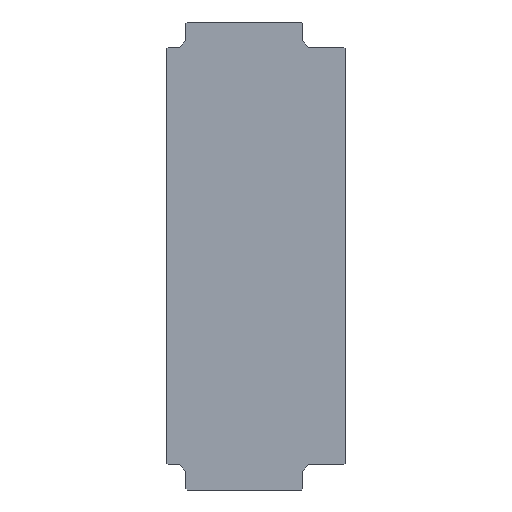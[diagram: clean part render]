
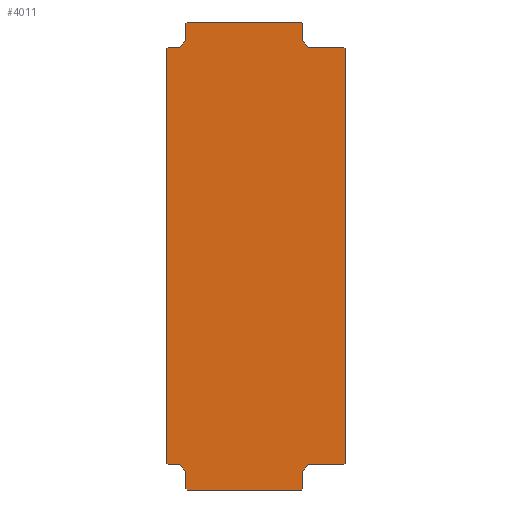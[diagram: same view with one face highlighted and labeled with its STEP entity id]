
A CAD part, front view. The second image highlights one B-rep face of the part: STEP entity #4011.
In plain terms, the highlighted planar face has unit normal (0, -1, 0) as drawn and (0, 0, 1) by its records, which use the part's own axes.
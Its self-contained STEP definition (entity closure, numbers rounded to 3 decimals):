
#1121=CARTESIAN_POINT(' ',(158.5,331.5,0.));
#1126=DIRECTION(' ',(-1.,0.,0.));
#1131=VECTOR(' ',#1126,1.);
#1136=LINE('',#1121,#1131);
#1141=CARTESIAN_POINT(' ',(158.5,331.5,0.));
#1142=VERTEX_POINT(' ',#1141);
#1146=CARTESIAN_POINT(' ',(102.5,331.5,0.));
#1147=VERTEX_POINT(' ',#1146);
#1151=EDGE_CURVE(' ',#1142,#1147,#1136,.T.);
#1276=CARTESIAN_POINT(' ',(160.5,329.5,0.));
#1281=DIRECTION(' ',(-0.707,0.707,0.));
#1286=VECTOR(' ',#1281,1.);
#1291=LINE('',#1276,#1286);
#1296=CARTESIAN_POINT(' ',(160.5,329.5,0.));
#1297=VERTEX_POINT(' ',#1296);
#1301=EDGE_CURVE(' ',#1297,#1142,#1291,.T.);
#1391=CARTESIAN_POINT(' ',(160.5,-329.5,0.));
#1396=DIRECTION(' ',(0.,1.,0.));
#1401=VECTOR(' ',#1396,1.);
#1406=LINE('',#1391,#1401);
#1411=CARTESIAN_POINT(' ',(160.5,-329.5,0.));
#1412=VERTEX_POINT(' ',#1411);
#1416=EDGE_CURVE(' ',#1412,#1297,#1406,.T.);
#1506=CARTESIAN_POINT(' ',(158.5,-331.5,0.));
#1511=DIRECTION(' ',(0.707,0.707,0.));
#1516=VECTOR(' ',#1511,1.);
#1521=LINE('',#1506,#1516);
#1526=CARTESIAN_POINT(' ',(158.5,-331.5,0.));
#1527=VERTEX_POINT(' ',#1526);
#1531=EDGE_CURVE(' ',#1527,#1412,#1521,.T.);
#1621=CARTESIAN_POINT(' ',(102.5,-331.5,0.));
#1626=DIRECTION(' ',(1.,0.,0.));
#1631=VECTOR(' ',#1626,1.);
#1636=LINE('',#1621,#1631);
#1641=CARTESIAN_POINT(' ',(102.5,-331.5,0.));
#1642=VERTEX_POINT(' ',#1641);
#1646=EDGE_CURVE(' ',#1642,#1527,#1636,.T.);
#1726=CARTESIAN_POINT(' ',(92.5,-341.5,0.));
#1731=DIRECTION(' ',(0.707,0.707,0.));
#1736=VECTOR(' ',#1731,1.);
#1741=LINE('',#1726,#1736);
#1746=CARTESIAN_POINT(' ',(92.5,-341.5,0.));
#1747=VERTEX_POINT(' ',#1746);
#1751=EDGE_CURVE(' ',#1747,#1642,#1741,.T.);
#1841=CARTESIAN_POINT(' ',(92.5,-369.5,0.));
#1846=DIRECTION(' ',(0.,1.,0.));
#1851=VECTOR(' ',#1846,1.);
#1856=LINE('',#1841,#1851);
#1861=CARTESIAN_POINT(' ',(92.5,-369.5,0.));
#1862=VERTEX_POINT(' ',#1861);
#1866=EDGE_CURVE(' ',#1862,#1747,#1856,.T.);
#1956=CARTESIAN_POINT(' ',(90.5,-371.5,0.));
#1961=DIRECTION(' ',(0.707,0.707,0.));
#1966=VECTOR(' ',#1961,1.);
#1971=LINE('',#1956,#1966);
#1976=CARTESIAN_POINT(' ',(90.5,-371.5,0.));
#1977=VERTEX_POINT(' ',#1976);
#1981=EDGE_CURVE(' ',#1977,#1862,#1971,.T.);
#2081=CARTESIAN_POINT(' ',(-90.5,-371.5,0.));
#2086=DIRECTION(' ',(1.,0.,0.));
#2091=VECTOR(' ',#2086,1.);
#2096=LINE('',#2081,#2091);
#2101=CARTESIAN_POINT(' ',(-90.5,-371.5,0.));
#2102=VERTEX_POINT(' ',#2101);
#2106=EDGE_CURVE(' ',#2102,#1977,#2096,.T.);
#2186=CARTESIAN_POINT(' ',(-92.5,-369.5,0.));
#2191=DIRECTION(' ',(0.707,-0.707,0.));
#2196=VECTOR(' ',#2191,1.);
#2201=LINE('',#2186,#2196);
#2206=CARTESIAN_POINT(' ',(-92.5,-369.5,0.));
#2207=VERTEX_POINT(' ',#2206);
#2211=EDGE_CURVE(' ',#2207,#2102,#2201,.T.);
#2311=CARTESIAN_POINT(' ',(-92.5,-341.5,0.));
#2316=DIRECTION(' ',(0.,-1.,0.));
#2321=VECTOR(' ',#2316,1.);
#2326=LINE('',#2311,#2321);
#2331=CARTESIAN_POINT(' ',(-92.5,-341.5,0.));
#2332=VERTEX_POINT(' ',#2331);
#2336=EDGE_CURVE(' ',#2332,#2207,#2326,.T.);
#2416=CARTESIAN_POINT(' ',(-102.5,-331.5,0.));
#2421=DIRECTION(' ',(0.707,-0.707,0.));
#2426=VECTOR(' ',#2421,1.);
#2431=LINE('',#2416,#2426);
#2436=CARTESIAN_POINT(' ',(-102.5,-331.5,0.));
#2437=VERTEX_POINT(' ',#2436);
#2441=EDGE_CURVE(' ',#2437,#2332,#2431,.T.);
#2531=CARTESIAN_POINT(' ',(-120.5,-331.5,0.));
#2536=DIRECTION(' ',(1.,0.,0.));
#2541=VECTOR(' ',#2536,1.);
#2546=LINE('',#2531,#2541);
#2551=CARTESIAN_POINT(' ',(-120.5,-331.5,0.));
#2552=VERTEX_POINT(' ',#2551);
#2556=EDGE_CURVE(' ',#2552,#2437,#2546,.T.);
#2646=CARTESIAN_POINT(' ',(-122.5,-329.5,0.));
#2651=DIRECTION(' ',(0.707,-0.707,0.));
#2656=VECTOR(' ',#2651,1.);
#2661=LINE('',#2646,#2656);
#2666=CARTESIAN_POINT(' ',(-122.5,-329.5,0.));
#2667=VERTEX_POINT(' ',#2666);
#2671=EDGE_CURVE(' ',#2667,#2552,#2661,.T.);
#2771=CARTESIAN_POINT(' ',(-122.5,329.5,0.));
#2776=DIRECTION(' ',(0.,-1.,0.));
#2781=VECTOR(' ',#2776,1.);
#2786=LINE('',#2771,#2781);
#2791=CARTESIAN_POINT(' ',(-122.5,329.5,0.));
#2792=VERTEX_POINT(' ',#2791);
#2796=EDGE_CURVE(' ',#2792,#2667,#2786,.T.);
#2876=CARTESIAN_POINT(' ',(-120.5,331.5,0.));
#2881=DIRECTION(' ',(-0.707,-0.707,0.));
#2886=VECTOR(' ',#2881,1.);
#2891=LINE('',#2876,#2886);
#2896=CARTESIAN_POINT(' ',(-120.5,331.5,0.));
#2897=VERTEX_POINT(' ',#2896);
#2901=EDGE_CURVE(' ',#2897,#2792,#2891,.T.);
#3001=CARTESIAN_POINT(' ',(-102.5,331.5,0.));
#3006=DIRECTION(' ',(-1.,0.,0.));
#3011=VECTOR(' ',#3006,1.);
#3016=LINE('',#3001,#3011);
#3021=CARTESIAN_POINT(' ',(-102.5,331.5,0.));
#3022=VERTEX_POINT(' ',#3021);
#3026=EDGE_CURVE(' ',#3022,#2897,#3016,.T.);
#3106=CARTESIAN_POINT(' ',(-92.5,341.5,0.));
#3111=DIRECTION(' ',(-0.707,-0.707,0.));
#3116=VECTOR(' ',#3111,1.);
#3121=LINE('',#3106,#3116);
#3126=CARTESIAN_POINT(' ',(-92.5,341.5,0.));
#3127=VERTEX_POINT(' ',#3126);
#3131=EDGE_CURVE(' ',#3127,#3022,#3121,.T.);
#3221=CARTESIAN_POINT(' ',(-92.5,369.5,0.));
#3226=DIRECTION(' ',(0.,-1.,0.));
#3231=VECTOR(' ',#3226,1.);
#3236=LINE('',#3221,#3231);
#3241=CARTESIAN_POINT(' ',(-92.5,369.5,0.));
#3242=VERTEX_POINT(' ',#3241);
#3246=EDGE_CURVE(' ',#3242,#3127,#3236,.T.);
#3336=CARTESIAN_POINT(' ',(-90.5,371.5,0.));
#3341=DIRECTION(' ',(-0.707,-0.707,0.));
#3346=VECTOR(' ',#3341,1.);
#3351=LINE('',#3336,#3346);
#3356=CARTESIAN_POINT(' ',(-90.5,371.5,0.));
#3357=VERTEX_POINT(' ',#3356);
#3361=EDGE_CURVE(' ',#3357,#3242,#3351,.T.);
#3461=CARTESIAN_POINT(' ',(90.5,371.5,0.));
#3466=DIRECTION(' ',(-1.,0.,0.));
#3471=VECTOR(' ',#3466,1.);
#3476=LINE('',#3461,#3471);
#3481=CARTESIAN_POINT(' ',(90.5,371.5,0.));
#3482=VERTEX_POINT(' ',#3481);
#3486=EDGE_CURVE(' ',#3482,#3357,#3476,.T.);
#3566=CARTESIAN_POINT(' ',(92.5,369.5,0.));
#3571=DIRECTION(' ',(-0.707,0.707,0.));
#3576=VECTOR(' ',#3571,1.);
#3581=LINE('',#3566,#3576);
#3586=CARTESIAN_POINT(' ',(92.5,369.5,0.));
#3587=VERTEX_POINT(' ',#3586);
#3591=EDGE_CURVE(' ',#3587,#3482,#3581,.T.);
#3691=CARTESIAN_POINT(' ',(92.5,341.5,0.));
#3696=DIRECTION(' ',(0.,1.,0.));
#3701=VECTOR(' ',#3696,1.);
#3706=LINE('',#3691,#3701);
#3711=CARTESIAN_POINT(' ',(92.5,341.5,0.));
#3712=VERTEX_POINT(' ',#3711);
#3716=EDGE_CURVE(' ',#3712,#3587,#3706,.T.);
#3796=CARTESIAN_POINT(' ',(102.5,331.5,0.));
#3801=DIRECTION(' ',(-0.707,0.707,0.));
#3806=VECTOR(' ',#3801,1.);
#3811=LINE('',#3796,#3806);
#3816=EDGE_CURVE(' ',#1147,#3712,#3811,.T.);
#3856=DIRECTION(' ',(-0.,-0.,1.));
#3861=CARTESIAN_POINT(' ',(160.5,-371.5,0.));
#3866=DIRECTION(' ',(0.,1.,0.));
#3871=AXIS2_PLACEMENT_3D(' ',#3861,#3856,#3866);
#3876=PLANE('NONE',#3871);
#3881=ORIENTED_EDGE(' ',*,*,#1416,.T.);
#3886=ORIENTED_EDGE(' ',*,*,#1301,.T.);
#3891=ORIENTED_EDGE(' ',*,*,#1151,.T.);
#3896=ORIENTED_EDGE(' ',*,*,#3816,.T.);
#3901=ORIENTED_EDGE(' ',*,*,#3716,.T.);
#3906=ORIENTED_EDGE(' ',*,*,#3591,.T.);
#3911=ORIENTED_EDGE(' ',*,*,#3486,.T.);
#3916=ORIENTED_EDGE(' ',*,*,#3361,.T.);
#3921=ORIENTED_EDGE(' ',*,*,#3246,.T.);
#3926=ORIENTED_EDGE(' ',*,*,#3131,.T.);
#3931=ORIENTED_EDGE(' ',*,*,#3026,.T.);
#3936=ORIENTED_EDGE(' ',*,*,#2901,.T.);
#3941=ORIENTED_EDGE(' ',*,*,#2796,.T.);
#3946=ORIENTED_EDGE(' ',*,*,#2671,.T.);
#3951=ORIENTED_EDGE(' ',*,*,#2556,.T.);
#3956=ORIENTED_EDGE(' ',*,*,#2441,.T.);
#3961=ORIENTED_EDGE(' ',*,*,#2336,.T.);
#3966=ORIENTED_EDGE(' ',*,*,#2211,.T.);
#3971=ORIENTED_EDGE(' ',*,*,#2106,.T.);
#3976=ORIENTED_EDGE(' ',*,*,#1981,.T.);
#3981=ORIENTED_EDGE(' ',*,*,#1866,.T.);
#3986=ORIENTED_EDGE(' ',*,*,#1751,.T.);
#3991=ORIENTED_EDGE(' ',*,*,#1646,.T.);
#3996=ORIENTED_EDGE(' ',*,*,#1531,.T.);
#4001=EDGE_LOOP(' ',(#3881,#3886,#3891,#3896,#3901,#3906,#3911,#3916,#3921,#3926,#3931,#3936,#3941,#3946,#3951,#3956,#3961,#3966,#3971,#3976,#3981,#3986,#3991,#3996));
#4006=FACE_OUTER_BOUND(' ',#4001,.T.);
#4011=ADVANCED_FACE('NONE',(#4006),#3876,.T.);
